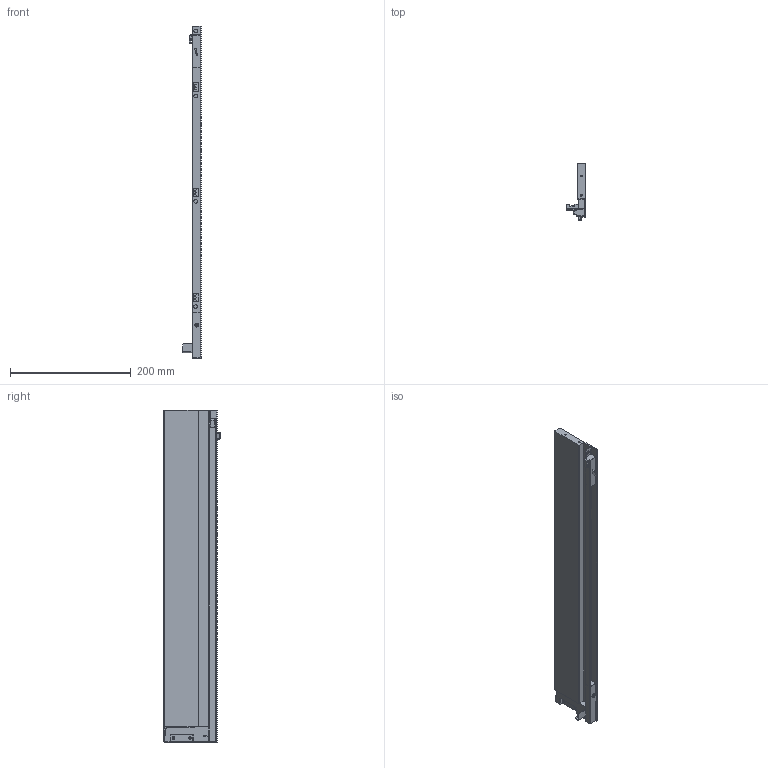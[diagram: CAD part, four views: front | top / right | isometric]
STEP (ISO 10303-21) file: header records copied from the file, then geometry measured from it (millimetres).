
FILE_DESCRIPTION (( 'STEP AP203' ), '1' );
FILE_NAME ('HT115501-R.STEP', '2021-03-16T02:19:41', ( 'Users' ), ( 'Microsoft' ), 'SwSTEP 2.0', 'SolidWorks 2018', '' );
FILE_SCHEMA (( 'CONFIG_CONTROL_DESIGN' ));
Length unit declared in the file: millimetre
Products named in the file (1): HT115501-R
Bounding box: 31.3 x 93 x 549 mm (x, y, z)
Volume: 470250.4 mm3; surface area: 138539.7 mm2
Topology: 1 solids, 8 shells, 402 faces, 1019 edges, 633 vertices
Faces by surface type: plane 199, cylinder 139, torus 29, bspline 23, cone 6, sphere 6
Entity records: 12556 total; most frequent: CARTESIAN_POINT 2954, ORIENTED_EDGE 2020, DIRECTION 1947, EDGE_CURVE 1010, AXIS2_PLACEMENT_3D 660, VERTEX_POINT 633, LINE 627, VECTOR 627
